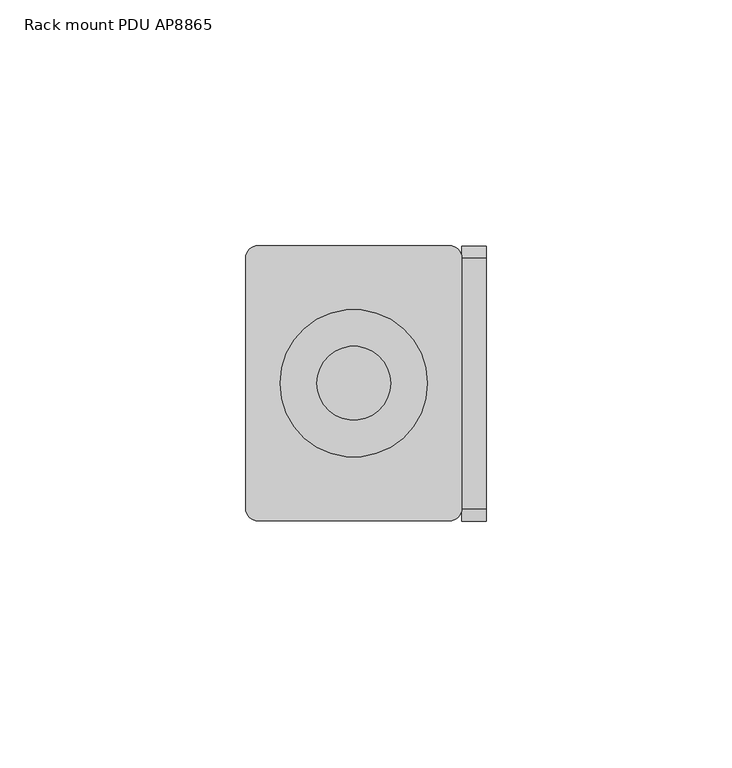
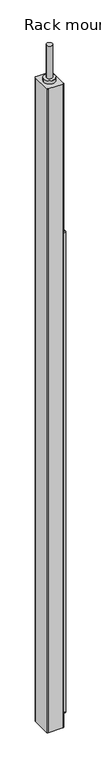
"""IFC4 building model written with IfcOpenShell, lengths in millimetres: proxy geometry, Rack mount PDU AP8865 : AP8865 - Rack PDU 2G, Metered."""

from ifc_helpers import new_model, si_unit, point, frame, frame_2d, origin, origin_with_axes, place, context, project, spatial, polyline, circle_curve, trimmed, segment, composite_curve, outline, extrude, source, transform, mapped, element, save


def rack_mount_pdu_ap8865_5da5d9cc(model_context):
    return source(origin(), model_context, "Body", "SweptSolid", [
        extrude(outline(composite_curve([segment(trimmed(circle_curve(frame_2d((-2.5, 0.0)), 15.0), [point((-17.5, 0.0))], [point((12.5, 0.0))], False, "CARTESIAN"), True, "CONTINUOUS"), segment(trimmed(circle_curve(frame_2d((-2.5, 0.0)), 15.0), [point((12.5, 0.0))], [point((-17.5, 0.0))], False, "CARTESIAN"), True, "CONTINUOUS")], self_intersect=False)), frame((0.0, 0.0, 1791.0), z_axis=(0.0, 0.0, 1.0), x_axis=(1.0, 0.0, 0.0)), (0.0, 0.0, 1.0), 9.0),
        extrude(outline(composite_curve([segment(trimmed(circle_curve(frame_2d((25.5, 1376.5)), 2.5), [point((25.5, 1379.0))], [point((28.0, 1376.5))], False, "CARTESIAN"), True, "CONTINUOUS"), segment(polyline([(28.0, 1376.5), (28.0, 42.5)]), True, "CONTINUOUS"), segment(trimmed(circle_curve(frame_2d((25.5, 42.5)), 2.5), [point((28.0, 42.5))], [point((25.5, 40.0))], False, "CARTESIAN"), True, "CONTINUOUS"), segment(polyline([(25.5, 40.0), (-25.5, 40.0)]), True, "CONTINUOUS"), segment(trimmed(circle_curve(frame_2d((-25.5, 42.5)), 2.5), [point((-25.5, 40.0))], [point((-28.0, 42.5))], False, "CARTESIAN"), True, "CONTINUOUS"), segment(polyline([(-28.0, 42.5), (-28.0, 1376.5)]), True, "CONTINUOUS"), segment(trimmed(circle_curve(frame_2d((-25.5, 1376.5)), 2.5), [point((-28.0, 1376.5))], [point((-25.5, 1379.0))], False, "CARTESIAN"), True, "CONTINUOUS"), segment(polyline([(-25.5, 1379.0), (25.5, 1379.0)]), True, "CONTINUOUS")], self_intersect=False)), frame((19.5, 0.0, 0.0), z_axis=(1.0, 0.0, 0.0), x_axis=(0.0, 1.0, 0.0)), (0.0, 0.0, 1.0), 5.0),
        extrude(outline(composite_curve([segment(trimmed(circle_curve(frame_2d((-2.5, 0.0)), 7.5101302), [point((-10.0101302, 0.0))], [point((5.0101302, 0.0))], False, "CARTESIAN"), True, "CONTINUOUS"), segment(trimmed(circle_curve(frame_2d((-2.5, 0.0)), 7.5101302), [point((5.0101302, 0.0))], [point((-10.0101302, 0.0))], False, "CARTESIAN"), True, "CONTINUOUS")], self_intersect=False)), frame((0.0, 0.0, 1800.0), z_axis=(0.0, 0.0, 1.0), x_axis=(1.0, 0.0, 0.0)), (0.0, 0.0, 1.0), 91.0),
        extrude(outline(composite_curve([segment(polyline([(-22.0, 28.0), (17.0, 28.0)]), True, "CONTINUOUS"), segment(trimmed(circle_curve(frame_2d((17.0, 25.5)), 2.5), [point((17.0, 28.0))], [point((19.5, 25.5))], False, "CARTESIAN"), True, "CONTINUOUS"), segment(polyline([(19.5, 25.5), (19.5, -25.5)]), True, "CONTINUOUS"), segment(trimmed(circle_curve(frame_2d((17.0, -25.5)), 2.5), [point((19.5, -25.5))], [point((17.0, -28.0))], False, "CARTESIAN"), True, "CONTINUOUS"), segment(polyline([(17.0, -28.0), (-22.0, -28.0)]), True, "CONTINUOUS"), segment(trimmed(circle_curve(frame_2d((-22.0, -25.5)), 2.5), [point((-22.0, -28.0))], [point((-24.5, -25.5))], False, "CARTESIAN"), True, "CONTINUOUS"), segment(polyline([(-24.5, -25.5), (-24.5, 25.5)]), True, "CONTINUOUS"), segment(trimmed(circle_curve(frame_2d((-22.0, 25.5)), 2.5), [point((-24.5, 25.5))], [point((-22.0, 28.0))], False, "CARTESIAN"), True, "CONTINUOUS")], self_intersect=False)), origin_with_axes(), (0.0, 0.0, 1.0), 1791.0),
    ])


if __name__ == "__main__":
    model = new_model("IFC4")
    model_context = context("Model", 3, world=origin())
    ifc_project = project(units=[si_unit("LENGTHUNIT", "METRE", prefix="MILLI")], contexts=[model_context])
    site = spatial("IfcSite", under=ifc_project)
    building = spatial("IfcBuilding", under=site)
    placement = place(None, origin())
    rack_mount_pdu_ap8865_shape = rack_mount_pdu_ap8865_5da5d9cc(model_context)
    element("IfcBuildingElementProxy", 1, Name="Rack mount PDU AP8865 : AP8865 - Rack PDU 2G, Metered", ObjectType="Rack mount PDU AP8865 : AP8865 - Rack PDU 2G, Metered", at=placement, inside=building, context=model_context, shape_type="MappedRepresentation", body=[
        mapped(rack_mount_pdu_ap8865_shape, transform((0.0, 0.0, 0.0), x_axis=(1.0, 0.0, 0.0), y_axis=(0.0, 1.0, 0.0), z_axis=(0.0, 0.0, 1.0))),
    ])
    save(model, "model.ifc")
